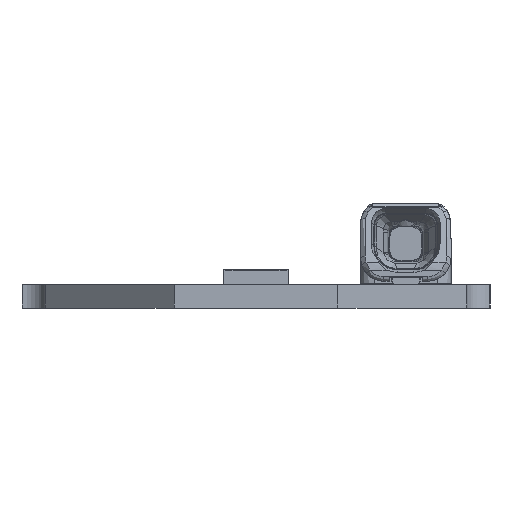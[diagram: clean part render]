
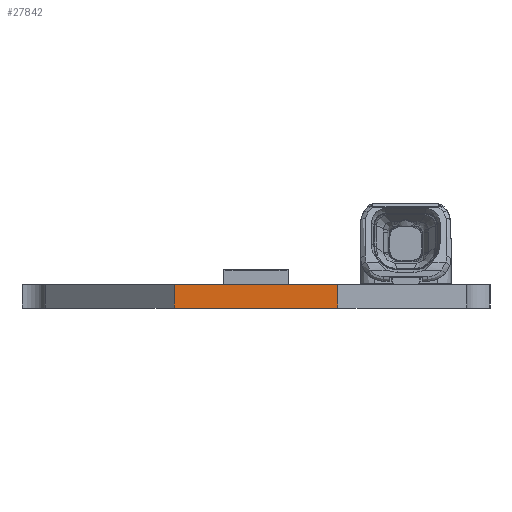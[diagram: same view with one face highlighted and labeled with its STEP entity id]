
A CAD part, left-side view. The second image highlights one B-rep face of the part: STEP entity #27842.
In plain terms, the highlighted planar face has unit normal (-1, 0, 0).
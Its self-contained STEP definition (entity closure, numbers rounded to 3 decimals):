
#1736=ORIENTED_EDGE('',*,*,#7125,.F.);
#1737=ORIENTED_EDGE('',*,*,#7415,.F.);
#1738=ORIENTED_EDGE('',*,*,#7323,.T.);
#1739=ORIENTED_EDGE('',*,*,#7414,.T.);
#7125=EDGE_CURVE('',#10099,#10100,#12019,.T.);
#7323=EDGE_CURVE('',#10207,#10297,#12145,.T.);
#7414=EDGE_CURVE('',#10297,#10100,#12236,.T.);
#7415=EDGE_CURVE('',#10207,#10099,#12237,.T.);
#10099=VERTEX_POINT('',#35721);
#10100=VERTEX_POINT('',#35723);
#10207=VERTEX_POINT('',#35938);
#10297=VERTEX_POINT('',#36118);
#12019=LINE('',#35722,#14317);
#12145=LINE('',#36119,#14443);
#12236=LINE('',#36300,#14534);
#12237=LINE('',#36302,#14535);
#14317=VECTOR('',#30466,1000.);
#14443=VECTOR('',#30738,1000.);
#14534=VECTOR('',#31009,1000.);
#14535=VECTOR('',#31012,1000.);
#16590=EDGE_LOOP('',(#1736,#1737,#1738,#1739));
#17826=FACE_BOUND('',#16590,.T.);
#18988=PLANE('',#29065);
#27842=ADVANCED_FACE('',(#17826),#18988,.T.);
#29065=AXIS2_PLACEMENT_3D('',#36301,#31010,#31011);
#30466=DIRECTION('',(0.,-1.,0.));
#30738=DIRECTION('',(0.,-1.,0.));
#31009=DIRECTION('',(0.,0.,1.));
#31010=DIRECTION('',(-1.,0.,0.));
#31011=DIRECTION('',(0.,0.,1.));
#31012=DIRECTION('',(0.,0.,1.));
#35721=CARTESIAN_POINT('',(-279.8,3.5,0.));
#35722=CARTESIAN_POINT('',(-279.8,3.5,0.));
#35723=CARTESIAN_POINT('',(-279.8,-3.5,0.));
#35938=CARTESIAN_POINT('',(-279.8,3.5,-1.));
#36118=CARTESIAN_POINT('',(-279.8,-3.5,-1.));
#36119=CARTESIAN_POINT('',(-279.8,3.5,-1.));
#36300=CARTESIAN_POINT('',(-279.8,-3.5,-1.));
#36301=CARTESIAN_POINT('',(-279.8,3.5,-1.));
#36302=CARTESIAN_POINT('',(-279.8,3.5,-1.));
